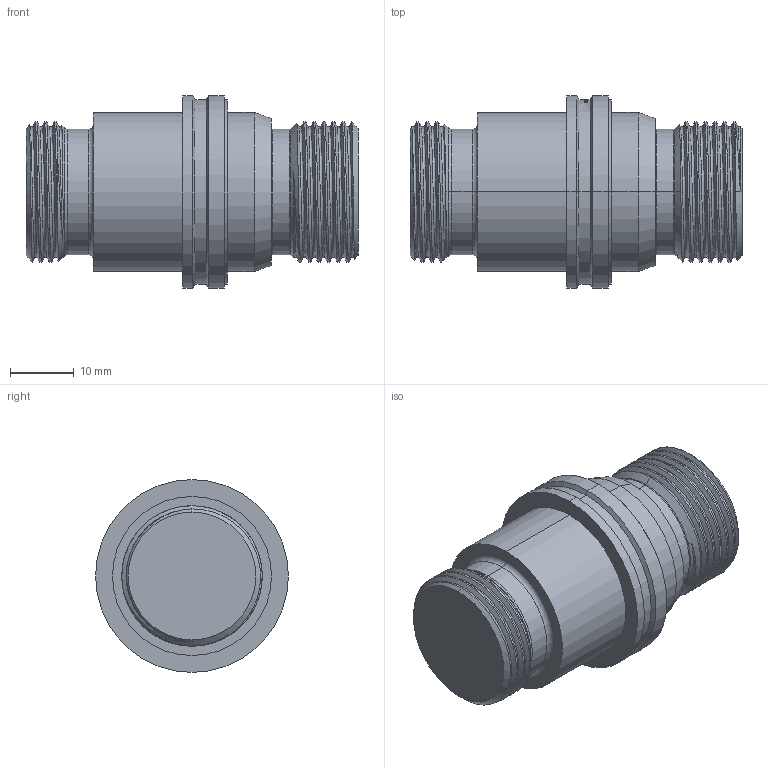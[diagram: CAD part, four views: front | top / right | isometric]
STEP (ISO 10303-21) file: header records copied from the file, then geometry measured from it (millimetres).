
FILE_DESCRIPTION (( 'STEP AP214' ), '1' );
FILE_NAME ('3DFSIJ2216000A.STEP', '2024-10-11T19:11:38', ( '' ), ( '' ), 'SwSTEP 2.0', 'SolidWorks 2023', '' );
FILE_SCHEMA (( 'AUTOMOTIVE_DESIGN' ));
Length unit declared in the file: millimetre
Products named in the file (1): 3DFSIJ2216000A
Bounding box: 52 x 30.2 x 30.2 mm (x, y, z)
Volume: 23003.6 mm3; surface area: 5902.8 mm2
Topology: 1 solids, 1 shells, 317 faces, 830 edges, 546 vertices
Faces by surface type: bspline 139, plane 96, cylinder 60, cone 14, torus 8
Entity records: 15436 total; most frequent: CARTESIAN_POINT 8870, ORIENTED_EDGE 1660, DIRECTION 874, EDGE_CURVE 830, VERTEX_POINT 546, B_SPLINE_CURVE_WITH_KNOTS 454, AXIS2_PLACEMENT_3D 359, EDGE_LOOP 348
